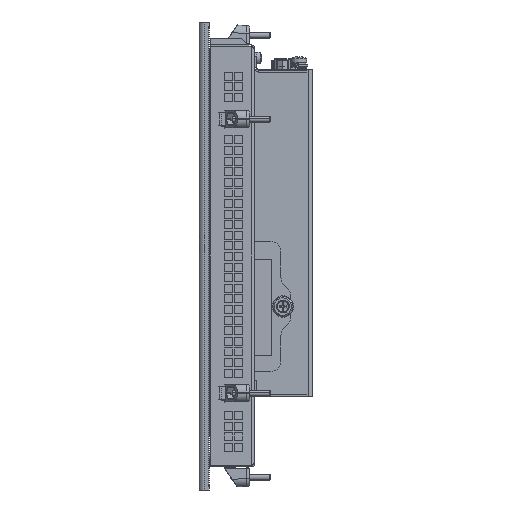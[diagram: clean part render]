
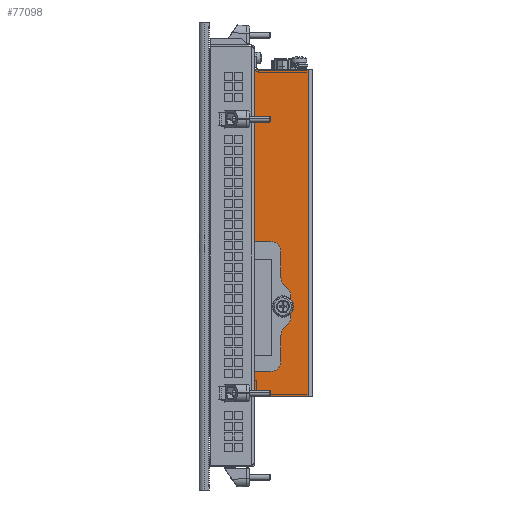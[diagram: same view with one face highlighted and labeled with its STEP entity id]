
A CAD part, left-side view. The second image highlights one B-rep face of the part: STEP entity #77098.
In plain terms, the highlighted planar face has unit normal (-1, 0, 0).
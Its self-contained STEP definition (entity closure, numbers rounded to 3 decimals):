
#52591=DIRECTION('',(0.,0.,1.));
#52592=VECTOR('',#52591,163.5);
#52593=CARTESIAN_POINT('',(-126.5,-47.9,-64.25));
#52594=LINE('',#52593,#52592);
#52595=DIRECTION('',(0.,1.,0.));
#52596=VECTOR('',#52595,8.5);
#52597=CARTESIAN_POINT('',(-126.5,-29.4,4.25));
#52598=LINE('',#52597,#52596);
#52599=DIRECTION('',(0.,-1.,0.));
#52600=VECTOR('',#52599,3.);
#52601=CARTESIAN_POINT('',(-126.5,-17.9,4.25));
#52602=LINE('',#52601,#52600);
#52603=DIRECTION('',(0.,-0.707,-0.707));
#52604=VECTOR('',#52603,1.414);
#52605=CARTESIAN_POINT('',(-126.5,-16.9,5.25));
#52606=LINE('',#52605,#52604);
#52607=DIRECTION('',(0.,0.,-1.));
#52608=VECTOR('',#52607,28.);
#52609=CARTESIAN_POINT('',(-126.5,-16.9,33.25));
#52610=LINE('',#52609,#52608);
#52611=DIRECTION('',(0.,0.707,-0.707));
#52612=VECTOR('',#52611,1.414);
#52613=CARTESIAN_POINT('',(-126.5,-17.9,34.25));
#52614=LINE('',#52613,#52612);
#52615=DIRECTION('',(0.,-1.,0.));
#52616=VECTOR('',#52615,3.);
#52617=CARTESIAN_POINT('',(-126.5,-17.9,34.25));
#52618=LINE('',#52617,#52616);
#52619=DIRECTION('',(0.,0.,-1.));
#52620=VECTOR('',#52619,55.);
#52621=CARTESIAN_POINT('',(-126.5,-20.9,89.25));
#52622=LINE('',#52621,#52620);
#52623=DIRECTION('',(0.,0.,-1.));
#52624=VECTOR('',#52623,4.);
#52625=CARTESIAN_POINT('',(-126.5,-20.9,93.25));
#52626=LINE('',#52625,#52624);
#52627=DIRECTION('',(0.,1.,0.));
#52628=VECTOR('',#52627,1.5);
#52629=CARTESIAN_POINT('',(-126.5,-20.9,93.25));
#52630=LINE('',#52629,#52628);
#52631=DIRECTION('',(0.,0.,-1.));
#52632=VECTOR('',#52631,3.);
#52633=CARTESIAN_POINT('',(-126.5,-19.4,93.25));
#52634=LINE('',#52633,#52632);
#52635=DIRECTION('',(0.,-0.707,0.707));
#52636=VECTOR('',#52635,1.414);
#52637=CARTESIAN_POINT('',(-126.5,-18.4,89.25));
#52638=LINE('',#52637,#52636);
#52639=DIRECTION('',(0.,-1.,0.));
#52640=VECTOR('',#52639,0.5);
#52641=CARTESIAN_POINT('',(-126.5,-17.9,89.25));
#52642=LINE('',#52641,#52640);
#52643=DIRECTION('',(0.,-0.707,-0.707));
#52644=VECTOR('',#52643,1.414);
#52645=CARTESIAN_POINT('',(-126.5,-16.9,90.25));
#52646=LINE('',#52645,#52644);
#52647=DIRECTION('',(0.,0.,-1.));
#52648=VECTOR('',#52647,8.);
#52649=CARTESIAN_POINT('',(-126.5,-16.9,98.25));
#52650=LINE('',#52649,#52648);
#52651=DIRECTION('',(0.,0.707,-0.707));
#52652=VECTOR('',#52651,1.414);
#52653=CARTESIAN_POINT('',(-126.5,-17.9,99.25));
#52654=LINE('',#52653,#52652);
#52655=DIRECTION('',(0.,0.,1.));
#52656=VECTOR('',#52655,4.);
#52657=CARTESIAN_POINT('',(-126.5,-20.9,-64.25));
#52658=LINE('',#52657,#52656);
#52659=DIRECTION('',(0.,1.,0.));
#52660=VECTOR('',#52659,1.5);
#52661=CARTESIAN_POINT('',(-126.5,-20.9,-60.25));
#52662=LINE('',#52661,#52660);
#52663=DIRECTION('',(0.,0.,-1.));
#52664=VECTOR('',#52663,3.);
#52665=CARTESIAN_POINT('',(-126.5,-19.4,-60.25));
#52666=LINE('',#52665,#52664);
#52667=DIRECTION('',(0.,-0.707,0.707));
#52668=VECTOR('',#52667,1.414);
#52669=CARTESIAN_POINT('',(-126.5,-18.4,-64.25));
#52670=LINE('',#52669,#52668);
#52671=DIRECTION('',(0.,-0.707,-0.707));
#52672=VECTOR('',#52671,1.414);
#52673=CARTESIAN_POINT('',(-126.5,-16.9,-63.25));
#52674=LINE('',#52673,#52672);
#52675=DIRECTION('',(0.,0.,-1.));
#52676=VECTOR('',#52675,6.5);
#52677=CARTESIAN_POINT('',(-126.5,-16.9,-56.75));
#52678=LINE('',#52677,#52676);
#52679=DIRECTION('',(0.,0.707,-0.707));
#52680=VECTOR('',#52679,1.414);
#52681=CARTESIAN_POINT('',(-126.5,-17.9,-55.75));
#52682=LINE('',#52681,#52680);
#52683=DIRECTION('',(0.,-1.,0.));
#52684=VECTOR('',#52683,3.);
#52685=CARTESIAN_POINT('',(-126.5,-17.9,-55.75));
#52686=LINE('',#52685,#52684);
#52687=DIRECTION('',(0.,0.,-1.));
#52688=VECTOR('',#52687,12.);
#52689=CARTESIAN_POINT('',(-126.5,-20.9,-43.75));
#52690=LINE('',#52689,#52688);
#52691=DIRECTION('',(0.,-1.,0.));
#52692=VECTOR('',#52691,8.5);
#52693=CARTESIAN_POINT('',(-126.5,-20.9,-43.75));
#52694=LINE('',#52693,#52692);
#52695=DIRECTION('',(0.,0.,1.));
#52696=VECTOR('',#52695,48.);
#52697=CARTESIAN_POINT('',(-126.5,-29.4,-43.75));
#52698=LINE('',#52697,#52696);
#52699=CARTESIAN_POINT('',(-126.5,-34.9,-19.25));
#52700=DIRECTION('',(-1.,0.,0.));
#52701=DIRECTION('',(0.,0.,1.));
#52702=AXIS2_PLACEMENT_3D('',#52699,#52700,#52701);
#52704=CARTESIAN_POINT('',(-126.5,-34.9,-19.25));
#52705=DIRECTION('',(-1.,0.,0.));
#52706=DIRECTION('',(0.,0.,-1.));
#52707=AXIS2_PLACEMENT_3D('',#52704,#52705,#52706);
#52867=DIRECTION('',(0.,-1.,0.));
#52868=VECTOR('',#52867,0.5);
#52869=CARTESIAN_POINT('',(-126.5,-17.9,-64.25));
#52870=LINE('',#52869,#52868);
#52879=DIRECTION('',(0.,-1.,0.));
#52880=VECTOR('',#52879,27.);
#52881=CARTESIAN_POINT('',(-126.5,-20.9,-64.25));
#52882=LINE('',#52881,#52880);
#52895=DIRECTION('',(0.,1.,0.));
#52896=VECTOR('',#52895,30.);
#52897=CARTESIAN_POINT('',(-126.5,-47.9,99.25));
#52898=LINE('',#52897,#52896);
#65755=CARTESIAN_POINT('',(-126.5,-47.9,-64.25));
#65756=CARTESIAN_POINT('',(-126.5,-47.9,99.25));
#65757=VERTEX_POINT('',#65755);
#65758=VERTEX_POINT('',#65756);
#68245=CARTESIAN_POINT('',(-126.5,-20.9,-60.25));
#68246=CARTESIAN_POINT('',(-126.5,-20.9,-64.25));
#68247=VERTEX_POINT('',#68245);
#68248=VERTEX_POINT('',#68246);
#68249=CARTESIAN_POINT('',(-126.5,-19.4,-60.25));
#68250=VERTEX_POINT('',#68249);
#68275=CARTESIAN_POINT('',(-126.5,-20.9,89.25));
#68276=CARTESIAN_POINT('',(-126.5,-20.9,34.25));
#68277=VERTEX_POINT('',#68275);
#68278=VERTEX_POINT('',#68276);
#68291=CARTESIAN_POINT('',(-126.5,-20.9,-55.75));
#68293=VERTEX_POINT('',#68291);
#68327=CARTESIAN_POINT('',(-126.5,-17.9,-55.75));
#68328=CARTESIAN_POINT('',(-126.5,-16.9,-56.75));
#68329=VERTEX_POINT('',#68327);
#68330=VERTEX_POINT('',#68328);
#68335=CARTESIAN_POINT('',(-126.5,-16.9,5.25));
#68336=CARTESIAN_POINT('',(-126.5,-17.9,4.25));
#68337=VERTEX_POINT('',#68335);
#68338=VERTEX_POINT('',#68336);
#68343=CARTESIAN_POINT('',(-126.5,-17.9,34.25));
#68344=CARTESIAN_POINT('',(-126.5,-16.9,33.25));
#68345=VERTEX_POINT('',#68343);
#68346=VERTEX_POINT('',#68344);
#68351=CARTESIAN_POINT('',(-126.5,-16.9,90.25));
#68352=CARTESIAN_POINT('',(-126.5,-17.9,89.25));
#68353=VERTEX_POINT('',#68351);
#68354=VERTEX_POINT('',#68352);
#68361=CARTESIAN_POINT('',(-126.5,-18.4,89.25));
#68362=VERTEX_POINT('',#68361);
#68367=CARTESIAN_POINT('',(-126.5,-16.9,98.25));
#68368=VERTEX_POINT('',#68367);
#68369=CARTESIAN_POINT('',(-126.5,-16.9,-63.25));
#68370=VERTEX_POINT('',#68369);
#68383=CARTESIAN_POINT('',(-126.5,-20.9,4.25));
#68384=CARTESIAN_POINT('',(-126.5,-29.4,4.25));
#68385=VERTEX_POINT('',#68383);
#68386=VERTEX_POINT('',#68384);
#68387=CARTESIAN_POINT('',(-126.5,-29.4,-43.75));
#68388=VERTEX_POINT('',#68387);
#68389=CARTESIAN_POINT('',(-126.5,-20.9,-43.75));
#68390=VERTEX_POINT('',#68389);
#68401=CARTESIAN_POINT('',(-126.5,-19.4,93.25));
#68402=CARTESIAN_POINT('',(-126.5,-20.9,93.25));
#68403=VERTEX_POINT('',#68401);
#68404=VERTEX_POINT('',#68402);
#68423=CARTESIAN_POINT('',(-126.5,-18.4,-64.25));
#68424=CARTESIAN_POINT('',(-126.5,-19.4,-63.25));
#68425=VERTEX_POINT('',#68423);
#68426=VERTEX_POINT('',#68424);
#68431=CARTESIAN_POINT('',(-126.5,-19.4,90.25));
#68432=VERTEX_POINT('',#68431);
#68443=CARTESIAN_POINT('',(-126.5,-17.9,-64.25));
#68444=VERTEX_POINT('',#68443);
#68447=CARTESIAN_POINT('',(-126.5,-17.9,99.25));
#68448=VERTEX_POINT('',#68447);
#71035=CARTESIAN_POINT('',(-126.5,-34.9,-21.4));
#71036=CARTESIAN_POINT('',(-126.5,-34.9,-17.1));
#71037=VERTEX_POINT('',#71035);
#71038=VERTEX_POINT('',#71036);
#77026=CARTESIAN_POINT('',(-126.5,-20.9,-64.25));
#77027=DIRECTION('',(-1.,0.,0.));
#77028=DIRECTION('',(0.,-1.,0.));
#77029=AXIS2_PLACEMENT_3D('',#77026,#77027,#77028);
#77030=PLANE('',#77029);
#77032=ORIENTED_EDGE('',*,*,#77031,.T.);
#77034=ORIENTED_EDGE('',*,*,#77033,.F.);
#77036=ORIENTED_EDGE('',*,*,#77035,.F.);
#77038=ORIENTED_EDGE('',*,*,#77037,.F.);
#77040=ORIENTED_EDGE('',*,*,#77039,.F.);
#77042=ORIENTED_EDGE('',*,*,#77041,.T.);
#77044=ORIENTED_EDGE('',*,*,#77043,.F.);
#77046=ORIENTED_EDGE('',*,*,#77045,.F.);
#77048=ORIENTED_EDGE('',*,*,#77047,.T.);
#77050=ORIENTED_EDGE('',*,*,#77049,.T.);
#77052=ORIENTED_EDGE('',*,*,#77051,.F.);
#77054=ORIENTED_EDGE('',*,*,#77053,.F.);
#77056=ORIENTED_EDGE('',*,*,#77055,.F.);
#77058=ORIENTED_EDGE('',*,*,#77057,.F.);
#77060=ORIENTED_EDGE('',*,*,#77059,.F.);
#77062=ORIENTED_EDGE('',*,*,#77061,.F.);
#77063=ORIENTED_EDGE('',*,*,#77018,.F.);
#77065=ORIENTED_EDGE('',*,*,#77064,.F.);
#77067=ORIENTED_EDGE('',*,*,#77066,.T.);
#77069=ORIENTED_EDGE('',*,*,#77068,.T.);
#77071=ORIENTED_EDGE('',*,*,#77070,.T.);
#77073=ORIENTED_EDGE('',*,*,#77072,.F.);
#77075=ORIENTED_EDGE('',*,*,#77074,.F.);
#77077=ORIENTED_EDGE('',*,*,#77076,.F.);
#77079=ORIENTED_EDGE('',*,*,#77078,.F.);
#77081=ORIENTED_EDGE('',*,*,#77080,.F.);
#77083=ORIENTED_EDGE('',*,*,#77082,.T.);
#77085=ORIENTED_EDGE('',*,*,#77084,.F.);
#77087=ORIENTED_EDGE('',*,*,#77086,.T.);
#77089=ORIENTED_EDGE('',*,*,#77088,.T.);
#77090=EDGE_LOOP('',(#77032,#77034,#77036,#77038,#77040,#77042,#77044,#77046,
#77048,#77050,#77052,#77054,#77056,#77058,#77060,#77062,#77063,#77065,#77067,
#77069,#77071,#77073,#77075,#77077,#77079,#77081,#77083,#77085,#77087,#77089));
#77091=FACE_OUTER_BOUND('',#77090,.F.);
#77093=ORIENTED_EDGE('',*,*,#77092,.T.);
#77095=ORIENTED_EDGE('',*,*,#77094,.T.);
#77096=EDGE_LOOP('',(#77093,#77095));
#77097=FACE_BOUND('',#77096,.F.);
#52703=CIRCLE('',#52702,2.15);
#52708=CIRCLE('',#52707,2.15);
#77018=EDGE_CURVE('',#65757,#65758,#52594,.T.);
#77031=EDGE_CURVE('',#68386,#68385,#52598,.T.);
#77033=EDGE_CURVE('',#68338,#68385,#52602,.T.);
#77035=EDGE_CURVE('',#68337,#68338,#52606,.T.);
#77037=EDGE_CURVE('',#68346,#68337,#52610,.T.);
#77039=EDGE_CURVE('',#68345,#68346,#52614,.T.);
#77041=EDGE_CURVE('',#68345,#68278,#52618,.T.);
#77043=EDGE_CURVE('',#68277,#68278,#52622,.T.);
#77045=EDGE_CURVE('',#68404,#68277,#52626,.T.);
#77047=EDGE_CURVE('',#68404,#68403,#52630,.T.);
#77049=EDGE_CURVE('',#68403,#68432,#52634,.T.);
#77051=EDGE_CURVE('',#68362,#68432,#52638,.T.);
#77053=EDGE_CURVE('',#68354,#68362,#52642,.T.);
#77055=EDGE_CURVE('',#68353,#68354,#52646,.T.);
#77057=EDGE_CURVE('',#68368,#68353,#52650,.T.);
#77059=EDGE_CURVE('',#68448,#68368,#52654,.T.);
#77061=EDGE_CURVE('',#65758,#68448,#52898,.T.);
#77064=EDGE_CURVE('',#68248,#65757,#52882,.T.);
#77066=EDGE_CURVE('',#68248,#68247,#52658,.T.);
#77068=EDGE_CURVE('',#68247,#68250,#52662,.T.);
#77070=EDGE_CURVE('',#68250,#68426,#52666,.T.);
#77072=EDGE_CURVE('',#68425,#68426,#52670,.T.);
#77074=EDGE_CURVE('',#68444,#68425,#52870,.T.);
#77076=EDGE_CURVE('',#68370,#68444,#52674,.T.);
#77078=EDGE_CURVE('',#68330,#68370,#52678,.T.);
#77080=EDGE_CURVE('',#68329,#68330,#52682,.T.);
#77082=EDGE_CURVE('',#68329,#68293,#52686,.T.);
#77084=EDGE_CURVE('',#68390,#68293,#52690,.T.);
#77086=EDGE_CURVE('',#68390,#68388,#52694,.T.);
#77088=EDGE_CURVE('',#68388,#68386,#52698,.T.);
#77092=EDGE_CURVE('',#71038,#71037,#52703,.T.);
#77094=EDGE_CURVE('',#71037,#71038,#52708,.T.);
#77098=ADVANCED_FACE('',(#77091,#77097),#77030,.T.);
